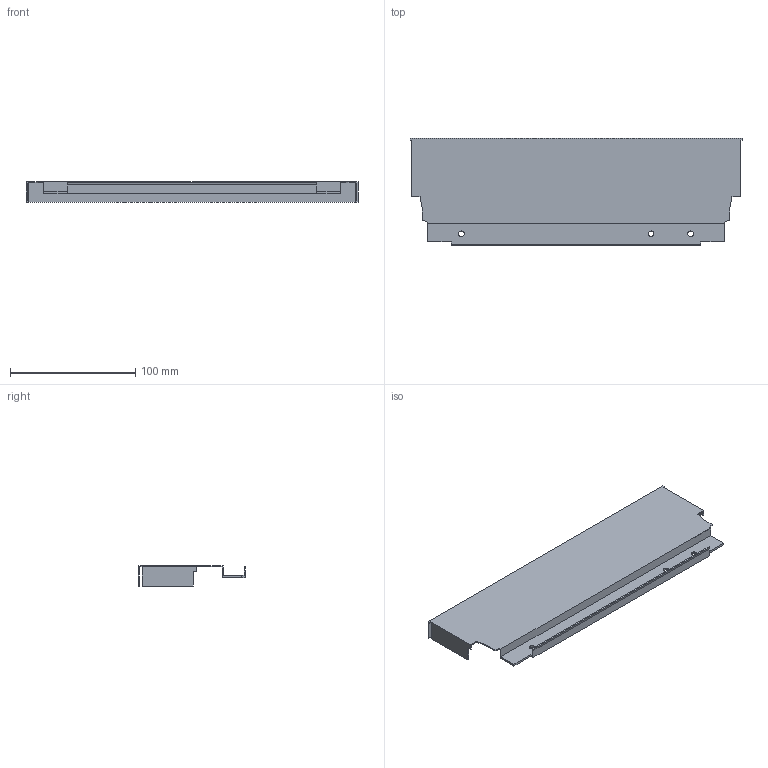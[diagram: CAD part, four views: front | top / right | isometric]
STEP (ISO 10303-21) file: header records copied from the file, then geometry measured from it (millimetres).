
FILE_DESCRIPTION (( 'STEP AP214' ), '1' );
FILE_NAME ('_DWD_XP Stahlrückwand_H86_KAB350_S18.step', '2010-07-08T12:10:17', ( 'grass' ), ( '' ), 'SwSTEP 2.0', 'SolidWorks 2010', '' );
FILE_SCHEMA (( 'AUTOMOTIVE_DESIGN' ));
Length unit declared in the file: millimetre
Products named in the file (1): _DWD_XP Stahlrückwand_H86_KAB350_S18
Bounding box: 265 x 85.79 x 16 mm (x, y, z)
Volume: 27699.4 mm3; surface area: 61089.5 mm2
Topology: 1 solids, 1 shells, 50 faces, 144 edges, 96 vertices
Faces by surface type: plane 44, cylinder 6
Entity records: 1666 total; most frequent: CARTESIAN_POINT 291, ORIENTED_EDGE 288, DIRECTION 258, EDGE_CURVE 144, VECTOR 132, LINE 132, VERTEX_POINT 96, AXIS2_PLACEMENT_3D 63
